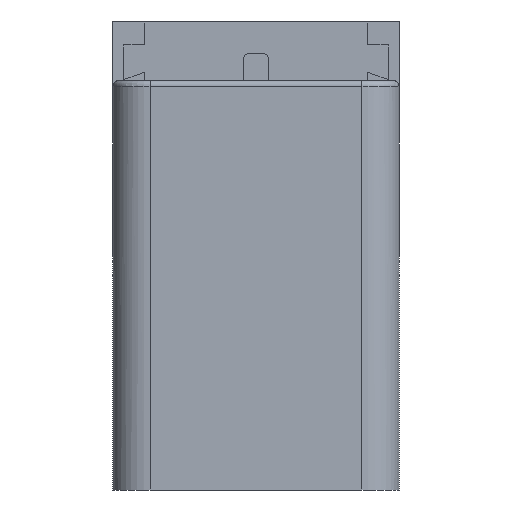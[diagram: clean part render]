
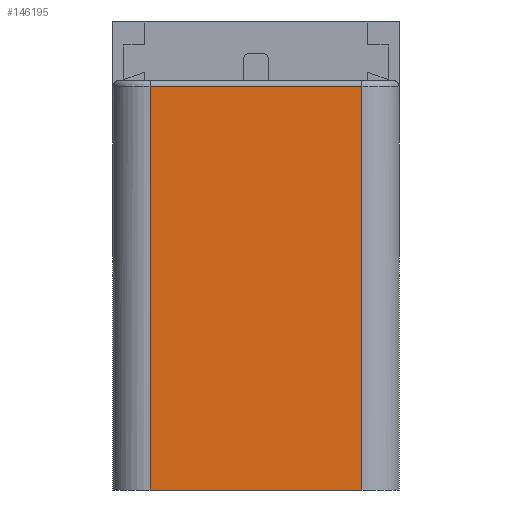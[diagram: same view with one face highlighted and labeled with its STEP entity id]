
A CAD part, left-side view. The second image highlights one B-rep face of the part: STEP entity #146195.
In plain terms, the highlighted planar face has unit normal (-1, 0, 0).
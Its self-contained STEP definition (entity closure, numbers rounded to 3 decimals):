
#51876 = CYLINDRICAL_SURFACE('',#51877,4.);
#51877 = AXIS2_PLACEMENT_3D('',#51878,#51879,#51880);
#51878 = CARTESIAN_POINT('',(-68.4,-11.3,0.));
#51879 = DIRECTION('',(0.,0.,1.));
#51880 = DIRECTION('',(-1.,-0.,0.));
#52055 = CYLINDRICAL_SURFACE('',#52056,4.);
#52056 = AXIS2_PLACEMENT_3D('',#52057,#52058,#52059);
#52057 = CARTESIAN_POINT('',(-68.4,11.3,0.));
#52058 = DIRECTION('',(0.,0.,1.));
#52059 = DIRECTION('',(-1.,-0.,0.));
#140516 = EDGE_CURVE('',#140517,#140519,#140521,.T.);
#140517 = VERTEX_POINT('',#140518);
#140518 = CARTESIAN_POINT('',(-72.4,-11.3,0.));
#140519 = VERTEX_POINT('',#140520);
#140520 = CARTESIAN_POINT('',(-72.4,-11.3,43.05));
#140521 = SURFACE_CURVE('',#140522,(#140526,#140533),.PCURVE_S1.);
#140522 = LINE('',#140523,#140524);
#140523 = CARTESIAN_POINT('',(-72.4,-11.3,0.));
#140524 = VECTOR('',#140525,1.);
#140525 = DIRECTION('',(0.,0.,1.));
#140526 = PCURVE('',#51876,#140527);
#140527 = DEFINITIONAL_REPRESENTATION('',(#140528),#140532);
#140528 = LINE('',#140529,#140530);
#140529 = CARTESIAN_POINT('',(0.,0.));
#140530 = VECTOR('',#140531,1.);
#140531 = DIRECTION('',(0.,1.));
#140532 = ( GEOMETRIC_REPRESENTATION_CONTEXT(2) 
PARAMETRIC_REPRESENTATION_CONTEXT() REPRESENTATION_CONTEXT('2D SPACE',''
  ) );
#140533 = PCURVE('',#140534,#140539);
#140534 = PLANE('',#140535);
#140535 = AXIS2_PLACEMENT_3D('',#140536,#140537,#140538);
#140536 = CARTESIAN_POINT('',(-72.4,-15.3,0.));
#140537 = DIRECTION('',(-1.,-0.,0.));
#140538 = DIRECTION('',(-0.,1.,0.));
#140539 = DEFINITIONAL_REPRESENTATION('',(#140540),#140544);
#140540 = LINE('',#140541,#140542);
#140541 = CARTESIAN_POINT('',(4.,0.));
#140542 = VECTOR('',#140543,1.);
#140543 = DIRECTION('',(0.,-1.));
#140544 = ( GEOMETRIC_REPRESENTATION_CONTEXT(2) 
PARAMETRIC_REPRESENTATION_CONTEXT() REPRESENTATION_CONTEXT('2D SPACE',''
  ) );
#140563 = PLANE('',#140564);
#140564 = AXIS2_PLACEMENT_3D('',#140565,#140566,#140567);
#140565 = CARTESIAN_POINT('',(0.,0.,0.));
#140566 = DIRECTION('',(0.,0.,1.));
#140567 = DIRECTION('',(1.,0.,-0.));
#140825 = EDGE_CURVE('',#140826,#140828,#140830,.T.);
#140826 = VERTEX_POINT('',#140827);
#140827 = CARTESIAN_POINT('',(-72.4,11.3,0.));
#140828 = VERTEX_POINT('',#140829);
#140829 = CARTESIAN_POINT('',(-72.4,11.3,43.05));
#140830 = SURFACE_CURVE('',#140831,(#140835,#140842),.PCURVE_S1.);
#140831 = LINE('',#140832,#140833);
#140832 = CARTESIAN_POINT('',(-72.4,11.3,0.));
#140833 = VECTOR('',#140834,1.);
#140834 = DIRECTION('',(0.,0.,1.));
#140835 = PCURVE('',#52055,#140836);
#140836 = DEFINITIONAL_REPRESENTATION('',(#140837),#140841);
#140837 = LINE('',#140838,#140839);
#140838 = CARTESIAN_POINT('',(-0.,0.));
#140839 = VECTOR('',#140840,1.);
#140840 = DIRECTION('',(-0.,1.));
#140841 = ( GEOMETRIC_REPRESENTATION_CONTEXT(2) 
PARAMETRIC_REPRESENTATION_CONTEXT() REPRESENTATION_CONTEXT('2D SPACE',''
  ) );
#140842 = PCURVE('',#140534,#140843);
#140843 = DEFINITIONAL_REPRESENTATION('',(#140844),#140848);
#140844 = LINE('',#140845,#140846);
#140845 = CARTESIAN_POINT('',(26.6,0.));
#140846 = VECTOR('',#140847,1.);
#140847 = DIRECTION('',(0.,-1.));
#140848 = ( GEOMETRIC_REPRESENTATION_CONTEXT(2) 
PARAMETRIC_REPRESENTATION_CONTEXT() REPRESENTATION_CONTEXT('2D SPACE',''
  ) );
#141002 = CYLINDRICAL_SURFACE('',#141003,0.6);
#141003 = AXIS2_PLACEMENT_3D('',#141004,#141005,#141006);
#141004 = CARTESIAN_POINT('',(-71.8,-11.3,43.05));
#141005 = DIRECTION('',(-0.,1.,0.));
#141006 = DIRECTION('',(-1.,-0.,0.));
#146195 = ADVANCED_FACE('',(#146196),#140534,.T.);
#146196 = FACE_BOUND('',#146197,.T.);
#146197 = EDGE_LOOP('',(#146198,#146199,#146220,#146221));
#146198 = ORIENTED_EDGE('',*,*,#140516,.T.);
#146199 = ORIENTED_EDGE('',*,*,#146200,.T.);
#146200 = EDGE_CURVE('',#140519,#140828,#146201,.T.);
#146201 = SURFACE_CURVE('',#146202,(#146206,#146213),.PCURVE_S1.);
#146202 = LINE('',#146203,#146204);
#146203 = CARTESIAN_POINT('',(-72.4,-11.3,43.05));
#146204 = VECTOR('',#146205,1.);
#146205 = DIRECTION('',(-0.,1.,0.));
#146206 = PCURVE('',#140534,#146207);
#146207 = DEFINITIONAL_REPRESENTATION('',(#146208),#146212);
#146208 = LINE('',#146209,#146210);
#146209 = CARTESIAN_POINT('',(4.,-43.05));
#146210 = VECTOR('',#146211,1.);
#146211 = DIRECTION('',(1.,0.));
#146212 = ( GEOMETRIC_REPRESENTATION_CONTEXT(2) 
PARAMETRIC_REPRESENTATION_CONTEXT() REPRESENTATION_CONTEXT('2D SPACE',''
  ) );
#146213 = PCURVE('',#141002,#146214);
#146214 = DEFINITIONAL_REPRESENTATION('',(#146215),#146219);
#146215 = LINE('',#146216,#146217);
#146216 = CARTESIAN_POINT('',(0.,0.));
#146217 = VECTOR('',#146218,1.);
#146218 = DIRECTION('',(0.,1.));
#146219 = ( GEOMETRIC_REPRESENTATION_CONTEXT(2) 
PARAMETRIC_REPRESENTATION_CONTEXT() REPRESENTATION_CONTEXT('2D SPACE',''
  ) );
#146220 = ORIENTED_EDGE('',*,*,#140825,.F.);
#146221 = ORIENTED_EDGE('',*,*,#146222,.F.);
#146222 = EDGE_CURVE('',#140517,#140826,#146223,.T.);
#146223 = SURFACE_CURVE('',#146224,(#146228,#146235),.PCURVE_S1.);
#146224 = LINE('',#146225,#146226);
#146225 = CARTESIAN_POINT('',(-72.4,0.,0.));
#146226 = VECTOR('',#146227,1.);
#146227 = DIRECTION('',(-0.,1.,0.));
#146228 = PCURVE('',#140534,#146229);
#146229 = DEFINITIONAL_REPRESENTATION('',(#146230),#146234);
#146230 = LINE('',#146231,#146232);
#146231 = CARTESIAN_POINT('',(15.3,0.));
#146232 = VECTOR('',#146233,1.);
#146233 = DIRECTION('',(1.,0.));
#146234 = ( GEOMETRIC_REPRESENTATION_CONTEXT(2) 
PARAMETRIC_REPRESENTATION_CONTEXT() REPRESENTATION_CONTEXT('2D SPACE',''
  ) );
#146235 = PCURVE('',#140563,#146236);
#146236 = DEFINITIONAL_REPRESENTATION('',(#146237),#146241);
#146237 = LINE('',#146238,#146239);
#146238 = CARTESIAN_POINT('',(-72.4,0.));
#146239 = VECTOR('',#146240,1.);
#146240 = DIRECTION('',(0.,1.));
#146241 = ( GEOMETRIC_REPRESENTATION_CONTEXT(2) 
PARAMETRIC_REPRESENTATION_CONTEXT() REPRESENTATION_CONTEXT('2D SPACE',''
  ) );
